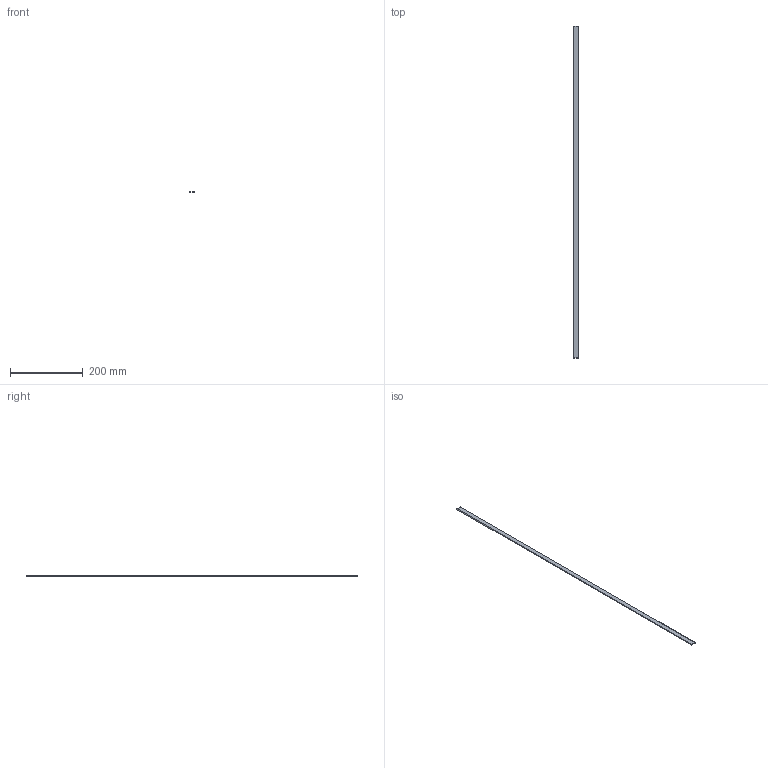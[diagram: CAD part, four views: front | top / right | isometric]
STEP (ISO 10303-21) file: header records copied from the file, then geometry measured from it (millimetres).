
FILE_DESCRIPTION(/* description */ (''),/* implementation_level */ '2;1');
FILE_NAME(/* name */ 'C:/Users/drich/Desktop/BM38 v1.step',/* time_stamp */ '2020-01-04T15:39:33-06:00',/* author */ (''),/* organization */ (''),/* preprocessor_version */ 'ST-DEVELOPER v18',/* originating_system */ 'Autodesk Translation Framework v8.12.0.6',/* authorisation */ '');
FILE_SCHEMA (('AUTOMOTIVE_DESIGN { 1 0 10303 214 3 1 1 }'));
Length unit declared in the file: inch
Products named in the file (1): BM38
Bounding box: 14.12 x 914.4 x 2.36 mm (x, y, z)
Volume: 29464.2 mm3; surface area: 28403.8 mm2
Topology: 1 solids, 1 shells, 6 faces, 12 edges, 8 vertices
Faces by surface type: plane 4, cylinder 2
Entity records: 202 total; most frequent: DIRECTION 30, CARTESIAN_POINT 27, ORIENTED_EDGE 24, EDGE_CURVE 12, AXIS2_PLACEMENT_3D 11, LINE 8, VECTOR 8, VERTEX_POINT 8
